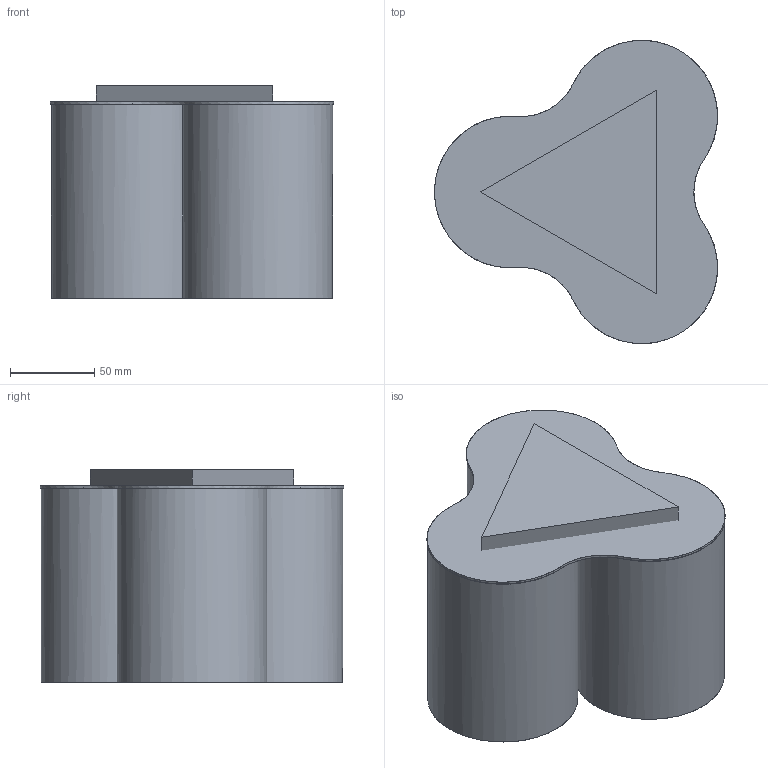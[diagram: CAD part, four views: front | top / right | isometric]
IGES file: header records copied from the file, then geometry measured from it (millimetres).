
Start section: SolidWorks IGES file using NURBS representation for surfaces
Global section: file name: Z:\Modele 3D_WWW\_KOLEKCJE_WWW\EYE-TONE\EYE-TONE-III-8091-8092-8093-7666\EYE-TONE-III-8091-8092-8093-7666.IGS; native system: SolidWorks 2021; preprocessor: SolidWorks 2021; author: gabriela.tworek; date: 211122.134312; units: millimetre
Bounding box: 167.92 x 179.95 x 126.2 mm (x, y, z)
Surface area: 333728.9 mm2 (no closed solid volume)
Topology: 0 solids, 0 shells, 55 faces, 246 edges, 222 vertices
Faces by surface type: bspline 55
